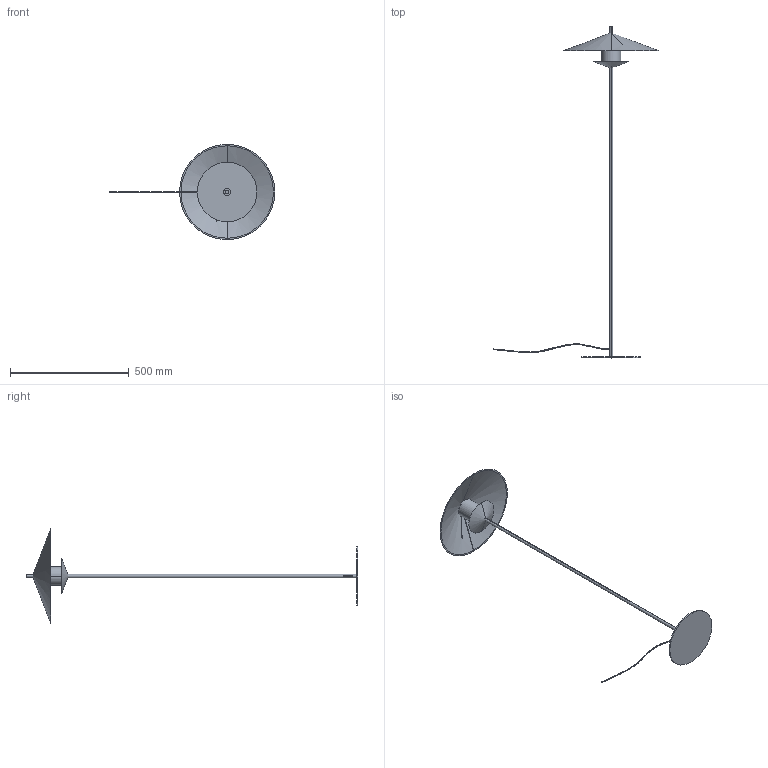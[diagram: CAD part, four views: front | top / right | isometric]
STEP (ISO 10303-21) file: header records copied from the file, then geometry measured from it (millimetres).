
FILE_DESCRIPTION (( 'STEP AP214' ), '1' );
FILE_NAME ('GEHIT_P1350.STEP', '2025-09-05T15:43:19', ( '' ), ( '' ), 'SwSTEP 2.0', 'SolidWorks 2018', '' );
FILE_SCHEMA (( 'AUTOMOTIVE_DESIGN' ));
Length unit declared in the file: millimetre
Products named in the file (1): GEHIT_P1350
Bounding box: 695.58 x 1395.02 x 400 mm (x, y, z)
Volume: 988931.5 mm3; surface area: 533077.6 mm2
Topology: 8 solids, 8 shells, 45 faces, 86 edges, 52 vertices
Faces by surface type: cylinder 16, plane 15, cone 10, torus 2, bspline 2
Entity records: 1457 total; most frequent: CARTESIAN_POINT 444, DIRECTION 210, ORIENTED_EDGE 156, AXIS2_PLACEMENT_3D 92, EDGE_CURVE 78, EDGE_LOOP 52, VERTEX_POINT 52, CIRCLE 48
